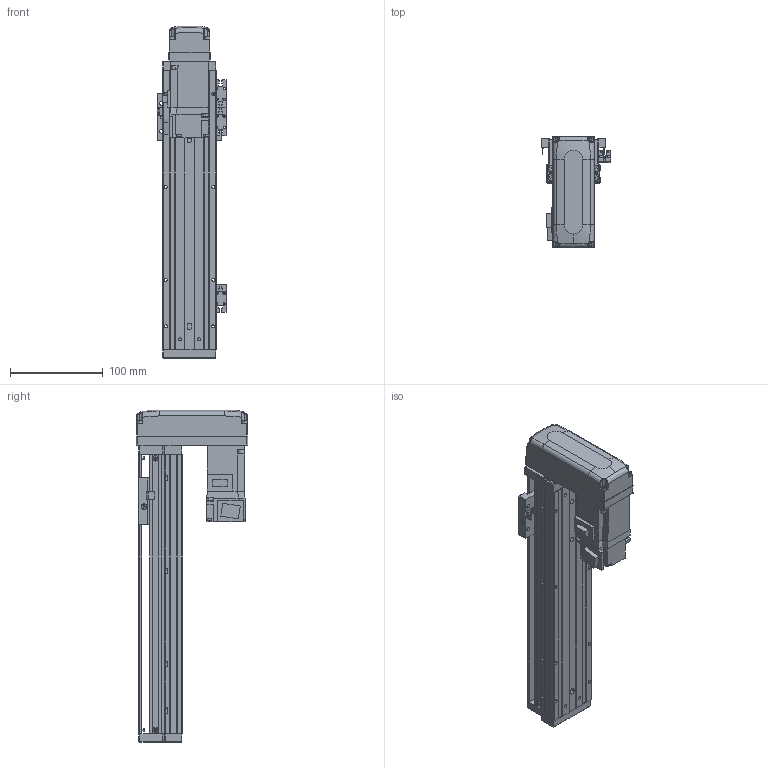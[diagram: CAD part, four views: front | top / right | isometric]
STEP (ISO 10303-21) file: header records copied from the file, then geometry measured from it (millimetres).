
FILE_DESCRIPTION (( 'STEP AP203' ), '1' );
FILE_NAME ('KTHA50-200-BM-M10-C4L.step', '2022-03-19T07:10:47', ( '微软用户' ), ( '微软中国' ), 'SwSTEP 2.0', 'SolidWorks 2020', '' );
FILE_SCHEMA (( 'CONFIG_CONTROL_DESIGN' ));
Length unit declared in the file: millimetre
Products named in the file (18): KTHA50-001_300; GBT 70.1-M3℅6; KTHA50-002; CTHA60-017; CTHA50-015-2_CTHA60-015-2; KTHA50-004; GBT 70.1-M4×12; CTHA60-033; KTHA50-005; CTHA60-016; GBT 70.1-M3×15; GB¨uT 70.2-M3¡Á6_M3¡Á6; CTHA60-021; KTHA50-200-BM-M10-C4L; EE_SX911P_R; GBT 70.3-M3℅6; GBT77-2000 M3×3; HG-KR13（三菱）
Assembly tree (53 placements, depth 2):
  KTHA50-200-BM-M10-C4L
    KTHA50-001_300
    KTHA50-002
    KTHA50-004
    KTHA50-005
    GB¨uT 70.2-M3¡Á6_M3¡Á6  x6
    EE_SX911P_R  x3
    GBT77-2000 M3×3  x6
    GBT 70.1-M3℅6  x6
    CTHA60-017  x3
    GBT 70.1-M4×12  x10
    CTHA60-016  x2
    CTHA60-021  x2
    GBT 70.3-M3℅6  x4
    HG-KR13（三菱）
    CTHA50-015-2_CTHA60-015-2
    CTHA60-033
    GBT 70.1-M3×15  x4
Bounding box: 75.22 x 120 x 357 mm (x, y, z)
Volume: 870211 mm3; surface area: 214891.2 mm2
Topology: 56 solids, 56 shells, 2223 faces, 5239 edges, 3208 vertices
Faces by surface type: plane 1240, cylinder 538, cone 303, torus 100, bspline 26, sphere 16
Entity records: 36943 total; most frequent: CARTESIAN_POINT 7010, DIRECTION 5745, ORIENTED_EDGE 5490, EDGE_CURVE 2745, AXIS2_PLACEMENT_3D 1959, VECTOR 1827, LINE 1827, VERTEX_POINT 1722
